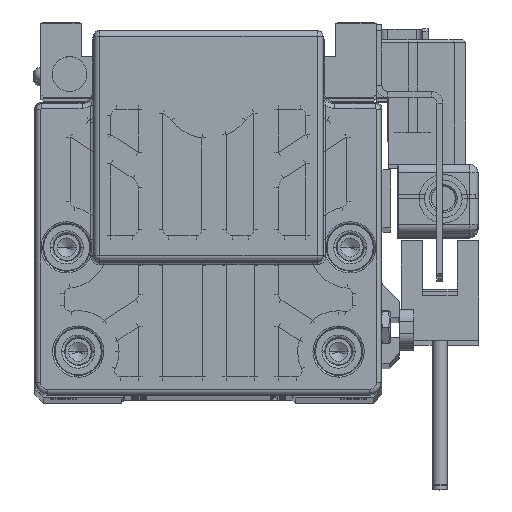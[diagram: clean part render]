
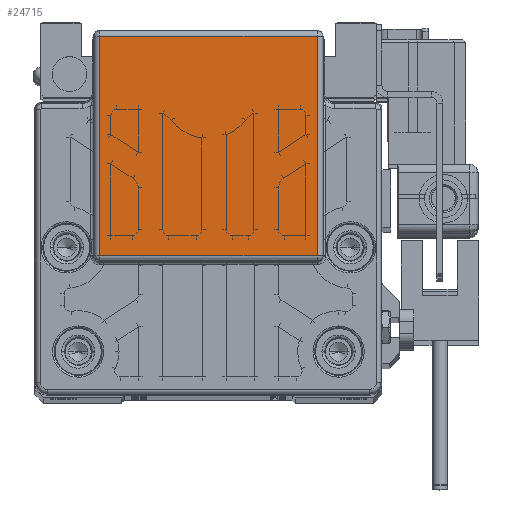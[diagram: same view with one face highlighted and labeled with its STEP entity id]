
A CAD part, top view. The second image highlights one B-rep face of the part: STEP entity #24715.
In plain terms, the highlighted planar face has unit normal (0, 0, 1) as drawn and (0, 0, -1) by its records, which use the part's own axes.
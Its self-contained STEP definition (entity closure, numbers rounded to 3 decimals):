
#2082 = DIRECTION ( 'NONE',  ( 1., 0., 0. ) ) ;
#2723 = LINE ( 'NONE', #20783, #74620 ) ;
#2887 = CARTESIAN_POINT ( 'NONE',  ( 19., 24.518, -143. ) ) ;
#3179 = VECTOR ( 'NONE', #2082, 1000. ) ;
#9154 = CARTESIAN_POINT ( 'NONE',  ( 19., 24.5, -143. ) ) ;
#13376 = DIRECTION ( 'NONE',  ( 0., 1., 0. ) ) ;
#15556 = DIRECTION ( 'NONE',  ( 0., -1., 0. ) ) ;
#15583 = DIRECTION ( 'NONE',  ( 0., 0., -1. ) ) ;
#16795 = CARTESIAN_POINT ( 'NONE',  ( -18.808, 62.447, -143. ) ) ;
#18440 = CARTESIAN_POINT ( 'NONE',  ( -18.808, 24.518, -143. ) ) ;
#20783 = CARTESIAN_POINT ( 'NONE',  ( -18.808, 31., -143. ) ) ;
#21070 = ORIENTED_EDGE ( 'NONE', *, *, #22721, .F. ) ;
#22654 = AXIS2_PLACEMENT_3D ( 'NONE', #9154, #15583, #64154 ) ;
#22721 = EDGE_CURVE ( 'NONE', #32992, #50983, #57878, .T. ) ;
#24715 = ADVANCED_FACE ( 'NONE', ( #70160 ), #39642, .T. ) ;
#27638 = VERTEX_POINT ( 'NONE', #16795 ) ;
#32992 = VERTEX_POINT ( 'NONE', #18440 ) ;
#33277 = DIRECTION ( 'NONE',  ( 1., 0., 0. ) ) ;
#36759 = EDGE_CURVE ( 'NONE', #27638, #42727, #63026, .T. ) ;
#39146 = VECTOR ( 'NONE', #33277, 1000. ) ;
#39642 = PLANE ( 'NONE',  #22654 ) ;
#42727 = VERTEX_POINT ( 'NONE', #77423 ) ;
#43789 = ORIENTED_EDGE ( 'NONE', *, *, #36759, .T. ) ;
#44378 = ORIENTED_EDGE ( 'NONE', *, *, #69192, .F. ) ;
#44864 = CARTESIAN_POINT ( 'NONE',  ( 18.808, 24.518, -143. ) ) ;
#45338 = CARTESIAN_POINT ( 'NONE',  ( 19., 62.447, -143. ) ) ;
#45859 = EDGE_LOOP ( 'NONE', ( #50314, #21070, #44378, #43789 ) ) ;
#50314 = ORIENTED_EDGE ( 'NONE', *, *, #69791, .F. ) ;
#50983 = VERTEX_POINT ( 'NONE', #44864 ) ;
#51081 = LINE ( 'NONE', #57100, #69565 ) ;
#57100 = CARTESIAN_POINT ( 'NONE',  ( 18.808, 24.5, -143. ) ) ;
#57878 = LINE ( 'NONE', #2887, #3179 ) ;
#63026 = LINE ( 'NONE', #45338, #39146 ) ;
#64154 = DIRECTION ( 'NONE',  ( 0., 1., 0. ) ) ;
#69192 = EDGE_CURVE ( 'NONE', #27638, #32992, #2723, .T. ) ;
#69565 = VECTOR ( 'NONE', #13376, 1000. ) ;
#69791 = EDGE_CURVE ( 'NONE', #50983, #42727, #51081, .T. ) ;
#70160 = FACE_OUTER_BOUND ( 'NONE', #45859, .T. ) ;
#74620 = VECTOR ( 'NONE', #15556, 1000. ) ;
#77423 = CARTESIAN_POINT ( 'NONE',  ( 18.808, 62.447, -143. ) ) ;
